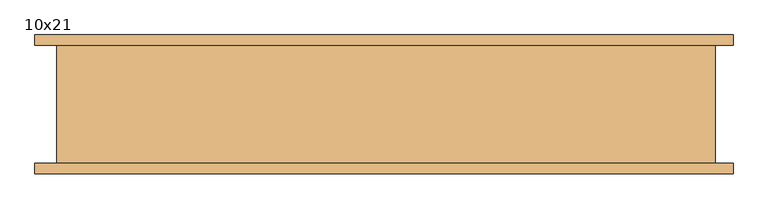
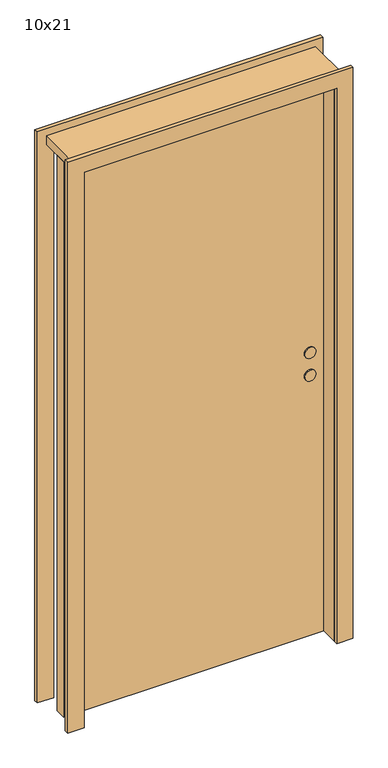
"""IFC4 building model written with IfcOpenShell, lengths in millimetres: door geometry, Innerdor Skyvedor Glatt : 10x21."""

from ifc_helpers import new_model, si_unit, point, frame, frame_2d, origin, origin_with_axes, place, context, project, spatial, polyline, circle_curve, trimmed, segment, composite_curve, outline, extrude, source, transform, mapped, element, save


def door_10x21_92fc2003(model_context):
    return source(origin(), model_context, "Body", "SweptSolid", [
        extrude(outline(polyline([(453.0, 20.0), (453.0, -20.0), (-473.0, -20.0), (-473.0, 20.0), (453.0, 20.0)])), origin_with_axes(), (0.0, 0.0, 1.0), 2088.0),
        extrude(outline(composite_curve([segment(trimmed(circle_curve(frame_2d((980.0, 403.0)), 20.0), [point((980.0, 423.0))], [point((980.0, 383.0))], False, "CARTESIAN"), True, "CONTINUOUS"), segment(trimmed(circle_curve(frame_2d((980.0, 403.0)), 20.0), [point((980.0, 383.0))], [point((980.0, 423.0))], False, "CARTESIAN"), True, "CONTINUOUS")], self_intersect=False)), frame((0.0, 20.0, 0.0), z_axis=(0.0, 1.0, 0.0), x_axis=(0.0, 0.0, 1.0)), (0.0, 0.0, 1.0), 5.0),
        extrude(outline(composite_curve([segment(trimmed(circle_curve(frame_2d((1065.0, 403.0)), 20.0), [point((1065.0, 423.0))], [point((1065.0, 383.0))], False, "CARTESIAN"), True, "CONTINUOUS"), segment(trimmed(circle_curve(frame_2d((1065.0, 403.0)), 20.0), [point((1065.0, 383.0))], [point((1065.0, 423.0))], False, "CARTESIAN"), True, "CONTINUOUS")], self_intersect=False)), frame((0.0, 20.0, 0.0), z_axis=(0.0, 1.0, 0.0), x_axis=(0.0, 0.0, 1.0)), (0.0, 0.0, 1.0), 5.0),
        extrude(outline(composite_curve([segment(trimmed(circle_curve(frame_2d((980.0, 403.0)), 20.0), [point((980.0, 423.0))], [point((980.0, 383.0))], False, "CARTESIAN"), True, "CONTINUOUS"), segment(trimmed(circle_curve(frame_2d((980.0, 403.0)), 20.0), [point((980.0, 383.0))], [point((980.0, 423.0))], False, "CARTESIAN"), True, "CONTINUOUS")], self_intersect=False)), frame((0.0, -25.0, 0.0), z_axis=(0.0, 1.0, 0.0), x_axis=(0.0, 0.0, 1.0)), (0.0, 0.0, 1.0), 5.0),
        extrude(outline(composite_curve([segment(trimmed(circle_curve(frame_2d((1065.0, 403.0)), 20.0), [point((1065.0, 423.0))], [point((1065.0, 383.0))], False, "CARTESIAN"), True, "CONTINUOUS"), segment(trimmed(circle_curve(frame_2d((1065.0, 403.0)), 20.0), [point((1065.0, 383.0))], [point((1065.0, 423.0))], False, "CARTESIAN"), True, "CONTINUOUS")], self_intersect=False)), frame((0.0, -25.0, 0.0), z_axis=(0.0, 1.0, 0.0), x_axis=(0.0, 0.0, 1.0)), (0.0, 0.0, 1.0), 5.0),
        extrude(outline(polyline([(0.0, 485.0), (2120.0, 485.0), (2120.0, -473.0), (2088.0, -473.0), (2088.0, 453.0), (0.0, 453.0), (0.0, 485.0)])), frame((0.0, -86.0, 0.0), z_axis=(0.0, 1.0, 0.0), x_axis=(0.0, 0.0, 1.0)), (0.0, 0.0, 1.0), 172.0),
        extrude(outline(polyline([(0.0, 511.0), (2146.0, 511.0), (2146.0, -505.0), (0.0, -505.0), (0.0, -447.0), (2088.0, -447.0), (2088.0, 453.0), (0.0, 453.0), (0.0, 511.0)])), frame((0.0, -101.0, 0.0), z_axis=(0.0, 1.0, 0.0), x_axis=(0.0, 0.0, 1.0)), (0.0, 0.0, 1.0), 15.0),
        extrude(outline(polyline([(0.0, 511.0), (2146.0, 511.0), (2146.0, -505.0), (0.0, -505.0), (0.0, -447.0), (2088.0, -447.0), (2088.0, 453.0), (0.0, 453.0), (0.0, 511.0)])), frame((0.0, 86.0, 0.0), z_axis=(0.0, 1.0, 0.0), x_axis=(0.0, 0.0, 1.0)), (0.0, 0.0, 1.0), 15.0),
    ])


if __name__ == "__main__":
    model = new_model("IFC4")
    model_context = context("Model", 3, world=origin())
    ifc_project = project(units=[si_unit("LENGTHUNIT", "METRE", prefix="MILLI")], contexts=[model_context])
    site = spatial("IfcSite", under=ifc_project)
    building = spatial("IfcBuilding", under=site)
    placement = place(None, origin())
    door_10x21_shape = door_10x21_92fc2003(model_context)
    element("IfcDoor", 1, ObjectType="Innerdor Skyvedor Glatt : 10x21", at=placement, inside=building, context=model_context, shape_type="MappedRepresentation", body=[
        mapped(door_10x21_shape, transform((0.0, 0.0, 0.0), x_axis=(1.0, 0.0, 0.0), y_axis=(0.0, 1.0, 0.0), z_axis=(0.0, 0.0, 1.0))),
    ])
    save(model, "model.ifc")
